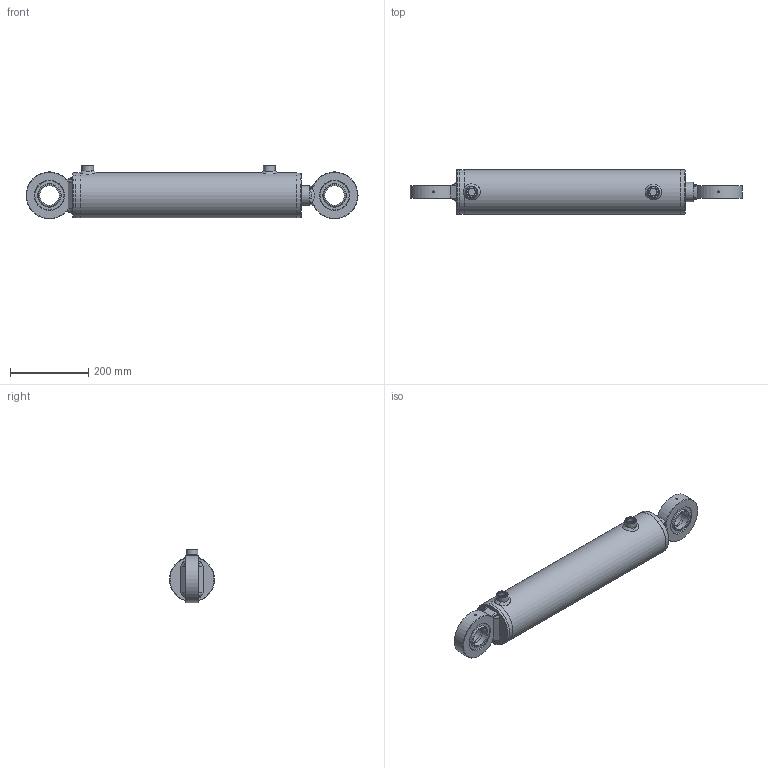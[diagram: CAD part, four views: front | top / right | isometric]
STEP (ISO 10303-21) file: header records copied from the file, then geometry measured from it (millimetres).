
FILE_DESCRIPTION( ( 'Unknown' ), '1' );
FILE_NAME( 'E:/LIBRERIA_3d/CILINDRI/HMC/HMC6500400.stp', 'Unknown', ( 'Unknown' ), ( 'Unknown' ), 'PSStep 17.0.49', 'Unknown', ' ' );
FILE_SCHEMA( ( 'AUTOMOTIVE_DESIGN { 1 0 10303 214 1 1 1 1 }' ) );
Length unit declared in the file: millimetre
Products named in the file (27): CG11510050; CT00100033; STL6700400-oa6; Saldatura d'angolo 1-oa4; FTM6700400-oa5; CBSC220800; CAGEG12007550; CGE0500000; CAGE120075; HM06500400; CF00100115; Saldatura con preparazione 1-oa2; Saldatura d'angolo 1-oa3; CBS0800000; CDA0003320; APG0800000; SBL5060400; Assem1; Saldatura d'angolo 1-oa0; Saldatura d'angolo 2-oa1
Assembly tree (20 placements, depth 4):
  Saldatura d'angolo 1-oa4
  Saldatura d'angolo 1-oa4
  Saldatura d'angolo 1-oa3
  Saldatura d'angolo 1-oa3
  Assem1
    CAGEG12007550  x2
      CGE0500000
      CAGE120075
    HM06500400
      CF00100115
      Saldatura con preparazione 1-oa2
      Saldatura con preparazione 1-oa2
      CBS0800000
      CDA0003320
      APG0800000  x2
      SBL5060400
      CG11510050
        CG11510050
      CT00100033
        CT00100033
      STL6700400-oa6
        FTM6700400-oa5
        CBSC220800
Bounding box: 850 x 115 x 137.5 mm (x, y, z)
Volume: 4187315.4 mm3; surface area: 790779.8 mm2
Topology: 24 solids, 24 shells, 374 faces, 830 edges, 491 vertices
Faces by surface type: bspline 134, plane 80, cylinder 78, cone 42, torus 36, sphere 4
Full cylindrical faces by diameter (mm): 3 x4, 4.25 x1, 4.917 x4, 8 x2, 12 x1, 18.631 x2, 19.5 x2, 20.95 x2, 26 x2, 30 x2, 32.4 x1, 33 x5, 39.2 x1, 50 x10, 53 x3, 58.6 x1, 60 x1, 73 x2, 75 x7, 91.5 x1, 93.14 x2, 98.05 x2, 99.9 x1, 100 x1, 100.3 x1, 100.5 x1, 100.6 x1, 101 x1, 102 x3, 102.835 x1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
Entity records: 17593 total; most frequent: CARTESIAN_POINT 9146, ORIENTED_EDGE 1070, DIRECTION 888, EDGE_LOOP 539, EDGE_CURVE 535, FACE_OUTER_BOUND 446, AXIS2_PLACEMENT_3D 431, VERTEX_POINT 399
